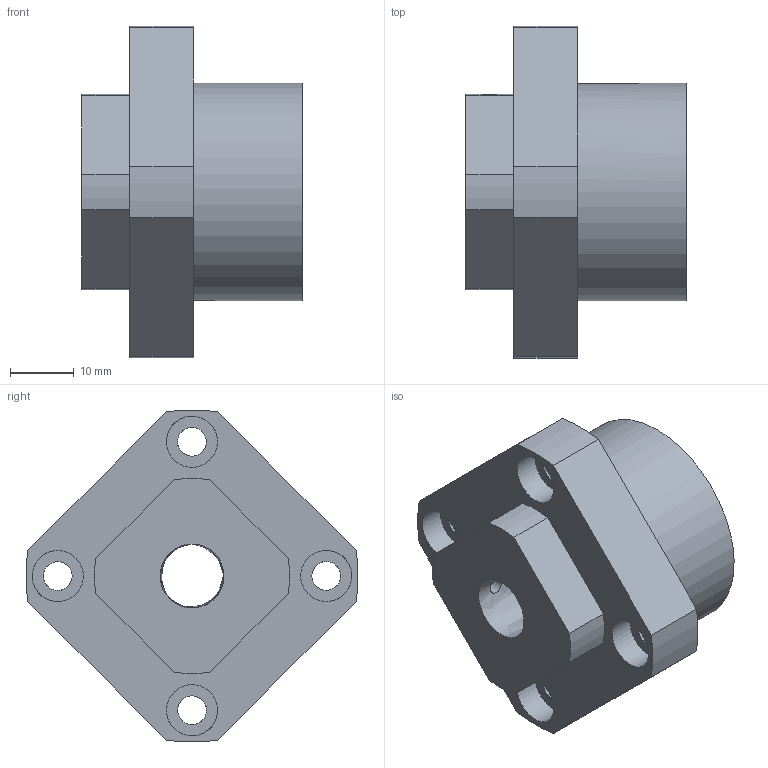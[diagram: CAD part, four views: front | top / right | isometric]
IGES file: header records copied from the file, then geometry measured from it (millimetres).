
Global section: file name: Опора фланцевая FK10 01.00; native system: Autodesk Inventor 2016; preprocessor: unknown; author: TraceParts; organization: TraceParts S.A.; date: 20170126.154855; units: millimetre
Bounding box: 34.5 x 51.93 x 51.93 mm (x, y, z)
Volume: 33127.5 mm3; surface area: 9080.9 mm2
Topology: 1 solids, 1 shells, 36 faces, 91 edges, 63 vertices
Faces by surface type: bspline 36
